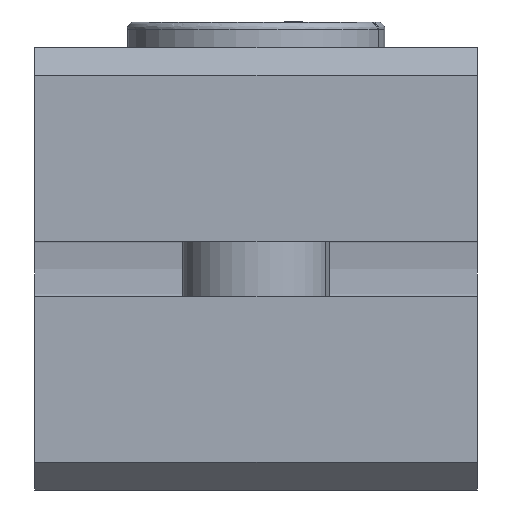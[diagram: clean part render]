
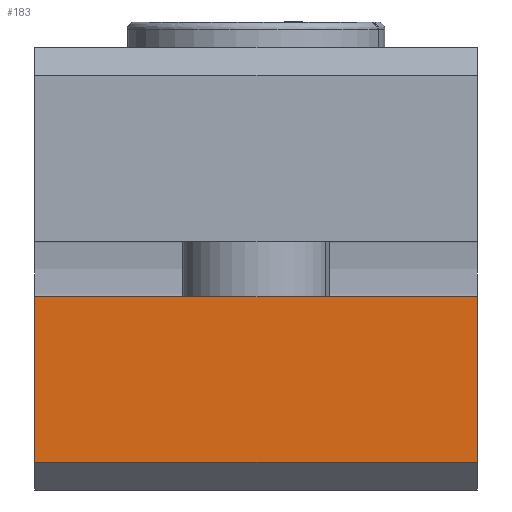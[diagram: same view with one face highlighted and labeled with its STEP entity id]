
A CAD part, left-side view. The second image highlights one B-rep face of the part: STEP entity #183.
In plain terms, the highlighted planar face has unit normal (-1, 0, 0).
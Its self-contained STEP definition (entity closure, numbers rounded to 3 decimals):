
#183 = ADVANCED_FACE ( 'NONE', ( #14998 ), #16169, .T. ) ;
#929 = EDGE_LOOP ( 'NONE', ( #16967, #3476, #10462, #8247 ) ) ;
#2527 = EDGE_CURVE ( 'NONE', #6185, #15633, #10566, .T. ) ;
#2991 = EDGE_CURVE ( 'NONE', #6705, #7519, #5851, .T. ) ;
#3292 = EDGE_CURVE ( 'NONE', #15633, #7519, #17557, .T. ) ;
#3476 = ORIENTED_EDGE ( 'NONE', *, *, #3292, .T. ) ;
#3639 = CARTESIAN_POINT ( 'NONE',  ( -115.16, 9.332, 48.52 ) ) ;
#4341 = CARTESIAN_POINT ( 'NONE',  ( -115.16, -2.668, 48.52 ) ) ;
#4538 = AXIS2_PLACEMENT_3D ( 'NONE', #16233, #11101, #14651 ) ;
#4896 = VECTOR ( 'NONE', #9624, 1000. ) ;
#5851 = LINE ( 'NONE', #16634, #18111 ) ;
#5884 = VECTOR ( 'NONE', #10935, 1000. ) ;
#6185 = VERTEX_POINT ( 'NONE', #13726 ) ;
#6705 = VERTEX_POINT ( 'NONE', #21921 ) ;
#7107 = CARTESIAN_POINT ( 'NONE',  ( -115.16, 3.332, 48.52 ) ) ;
#7519 = VERTEX_POINT ( 'NONE', #3639 ) ;
#7749 = DIRECTION ( 'NONE',  ( 0., 0., 1. ) ) ;
#8247 = ORIENTED_EDGE ( 'NONE', *, *, #12060, .T. ) ;
#9175 = DIRECTION ( 'NONE',  ( 0., 1., 0. ) ) ;
#9624 = DIRECTION ( 'NONE',  ( 0., -1., 0. ) ) ;
#10462 = ORIENTED_EDGE ( 'NONE', *, *, #2991, .F. ) ;
#10566 = LINE ( 'NONE', #14570, #5884 ) ;
#10935 = DIRECTION ( 'NONE',  ( 0., 0., 1. ) ) ;
#11101 = DIRECTION ( 'NONE',  ( -1., 0., 0. ) ) ;
#12060 = EDGE_CURVE ( 'NONE', #6705, #6185, #15523, .T. ) ;
#13726 = CARTESIAN_POINT ( 'NONE',  ( -115.16, -2.668, 44.02 ) ) ;
#14570 = CARTESIAN_POINT ( 'NONE',  ( -115.16, -2.668, 46.27 ) ) ;
#14651 = DIRECTION ( 'NONE',  ( 0., 0., 1. ) ) ;
#14998 = FACE_OUTER_BOUND ( 'NONE', #929, .T. ) ;
#15523 = LINE ( 'NONE', #18243, #4896 ) ;
#15633 = VERTEX_POINT ( 'NONE', #4341 ) ;
#16169 = PLANE ( 'NONE',  #4538 ) ;
#16233 = CARTESIAN_POINT ( 'NONE',  ( -115.16, -2.668, 44.02 ) ) ;
#16634 = CARTESIAN_POINT ( 'NONE',  ( -115.16, 9.332, 49.27 ) ) ;
#16967 = ORIENTED_EDGE ( 'NONE', *, *, #2527, .T. ) ;
#17557 = LINE ( 'NONE', #7107, #19488 ) ;
#18111 = VECTOR ( 'NONE', #7749, 1000. ) ;
#18243 = CARTESIAN_POINT ( 'NONE',  ( -115.16, 3.332, 44.02 ) ) ;
#19488 = VECTOR ( 'NONE', #9175, 1000. ) ;
#21921 = CARTESIAN_POINT ( 'NONE',  ( -115.16, 9.332, 44.02 ) ) ;
